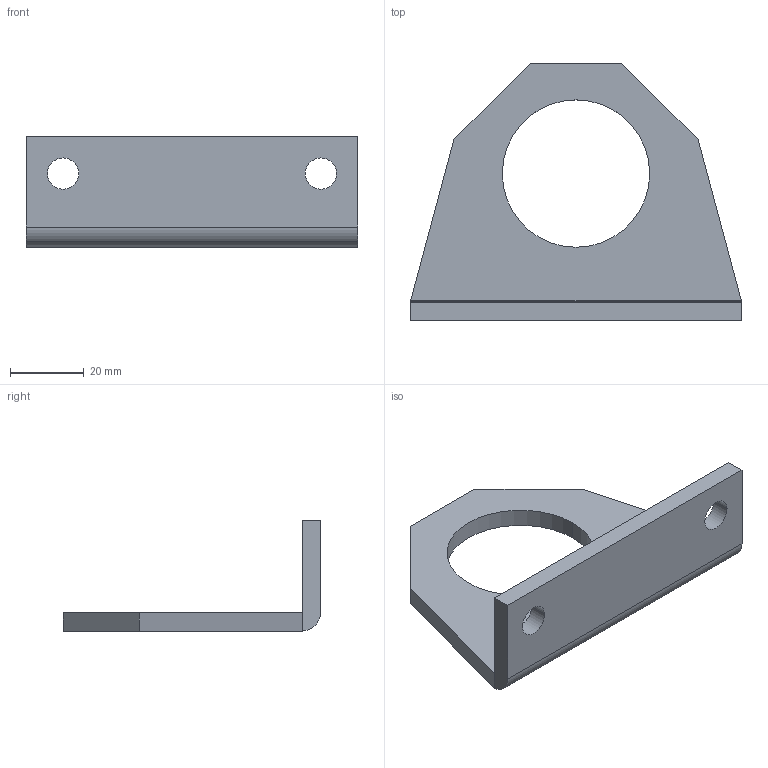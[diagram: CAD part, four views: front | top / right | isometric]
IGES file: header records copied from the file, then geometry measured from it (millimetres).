
Global section: file name: No Iges File Name specified; native system: AutoDesk Inventor R6.0; preprocessor: AutoDesk Inventor Iges Exporter R6.0; author: No Author specified; organization: No Organization specified; date: 20030408.081607; units: millimetre
Bounding box: 90 x 70 x 30 mm (x, y, z)
Volume: 28090.5 mm3; surface area: 13744.3 mm2
Topology: 1 solids, 1 shells, 22 faces, 58 edges, 38 vertices
Faces by surface type: plane 12, revolution 4, bspline 4, cylinder 2
